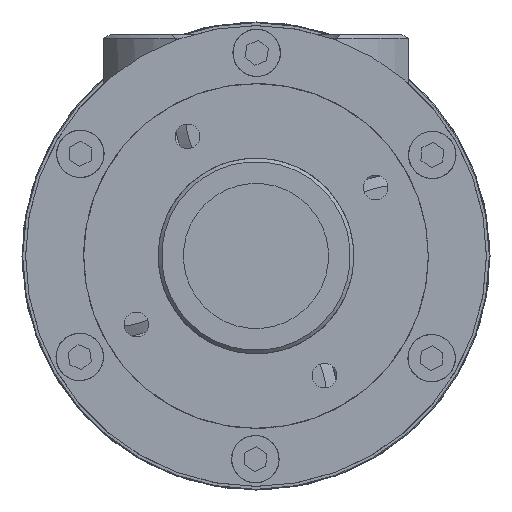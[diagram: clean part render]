
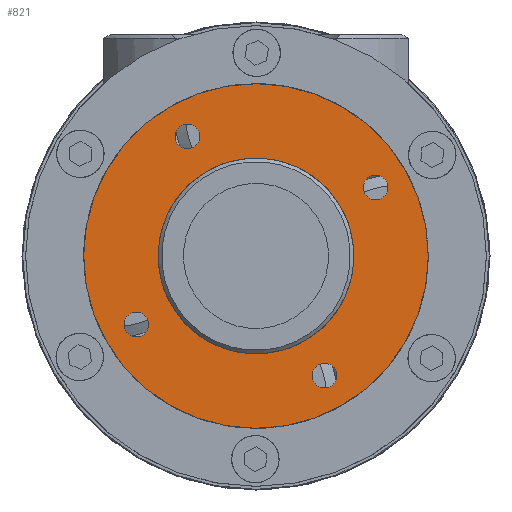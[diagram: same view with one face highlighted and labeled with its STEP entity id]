
A CAD part, left-side view. The second image highlights one B-rep face of the part: STEP entity #821.
In plain terms, the highlighted planar face has unit normal (-1, 0, 0) as drawn and (0, -1, 0) by its records, which use the part's own axes.
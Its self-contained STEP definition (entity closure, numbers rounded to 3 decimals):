
#821 = ADVANCED_FACE( '', ( #1687, #1688, #1689, #1690, #1691, #1692 ), #1693, .F. );
#1687 = FACE_OUTER_BOUND( '', #2636, .T. );
#1688 = FACE_BOUND( '', #2637, .T. );
#1689 = FACE_BOUND( '', #2638, .T. );
#1690 = FACE_BOUND( '', #2639, .T. );
#1691 = FACE_BOUND( '', #2640, .T. );
#1692 = FACE_BOUND( '', #2641, .T. );
#1693 = PLANE( '', #2642 );
#2636 = EDGE_LOOP( '', ( #4716 ) );
#2637 = EDGE_LOOP( '', ( #4717 ) );
#2638 = EDGE_LOOP( '', ( #4718 ) );
#2639 = EDGE_LOOP( '', ( #4719 ) );
#2640 = EDGE_LOOP( '', ( #4720 ) );
#2641 = EDGE_LOOP( '', ( #4721 ) );
#2642 = AXIS2_PLACEMENT_3D( '', #4722, #4723, #4724 );
#4716 = ORIENTED_EDGE( '', *, *, #5777, .T. );
#4717 = ORIENTED_EDGE( '', *, *, #5784, .F. );
#4718 = ORIENTED_EDGE( '', *, *, #5785, .F. );
#4719 = ORIENTED_EDGE( '', *, *, #5786, .F. );
#4720 = ORIENTED_EDGE( '', *, *, #5787, .F. );
#4721 = ORIENTED_EDGE( '', *, *, #5783, .F. );
#4722 = CARTESIAN_POINT( '', ( 0., 0., 47.5 ) );
#4723 = DIRECTION( '', ( 0., 1., 0. ) );
#4724 = DIRECTION( '', ( 1., 0., 0. ) );
#5777 = EDGE_CURVE( '', #6841, #6841, #6842, .T. );
#5783 = EDGE_CURVE( '', #6853, #6853, #6854, .T. );
#5784 = EDGE_CURVE( '', #6855, #6855, #6856, .T. );
#5785 = EDGE_CURVE( '', #6857, #6857, #6858, .T. );
#5786 = EDGE_CURVE( '', #6859, #6859, #6860, .T. );
#5787 = EDGE_CURVE( '', #6861, #6861, #6862, .T. );
#6841 = VERTEX_POINT( '', #8659 );
#6842 = CIRCLE( '', #8660, 47.5 );
#6853 = VERTEX_POINT( '', #8671 );
#6854 = CIRCLE( '', #8672, 27. );
#6855 = VERTEX_POINT( '', #8673 );
#6856 = CIRCLE( '', #8674, 3.4 );
#6857 = VERTEX_POINT( '', #8675 );
#6858 = CIRCLE( '', #8676, 3.4 );
#6859 = VERTEX_POINT( '', #8677 );
#6860 = CIRCLE( '', #8678, 3.4 );
#6861 = VERTEX_POINT( '', #8679 );
#6862 = CIRCLE( '', #8680, 3.4 );
#8659 = CARTESIAN_POINT( '', ( 0., 0., -47.5 ) );
#8660 = AXIS2_PLACEMENT_3D( '', #10173, #10174, #10175 );
#8671 = CARTESIAN_POINT( '', ( 0., 0., -27. ) );
#8672 = AXIS2_PLACEMENT_3D( '', #10191, #10192, #10193 );
#8673 = CARTESIAN_POINT( '', ( -38., 0., 3.4 ) );
#8674 = AXIS2_PLACEMENT_3D( '', #10194, #10195, #10196 );
#8675 = CARTESIAN_POINT( '', ( -3.4, 0., -38. ) );
#8676 = AXIS2_PLACEMENT_3D( '', #10197, #10198, #10199 );
#8677 = CARTESIAN_POINT( '', ( 38., 0., -3.4 ) );
#8678 = AXIS2_PLACEMENT_3D( '', #10200, #10201, #10202 );
#8679 = CARTESIAN_POINT( '', ( 3.4, 0., 38. ) );
#8680 = AXIS2_PLACEMENT_3D( '', #10203, #10204, #10205 );
#10173 = CARTESIAN_POINT( '', ( 0., 0., 0. ) );
#10174 = DIRECTION( '', ( 0., -1., 0. ) );
#10175 = DIRECTION( '', ( 0., 0., -1. ) );
#10191 = CARTESIAN_POINT( '', ( 0., 0., 0. ) );
#10192 = DIRECTION( '', ( 0., -1., 0. ) );
#10193 = DIRECTION( '', ( 0., 0., -1. ) );
#10194 = CARTESIAN_POINT( '', ( -38., 0., 0. ) );
#10195 = DIRECTION( '', ( 0., -1., 0. ) );
#10196 = DIRECTION( '', ( 0., 0., 1. ) );
#10197 = CARTESIAN_POINT( '', ( 0., 0., -38. ) );
#10198 = DIRECTION( '', ( 0., -1., 0. ) );
#10199 = DIRECTION( '', ( -1., 0., 0. ) );
#10200 = CARTESIAN_POINT( '', ( 38., 0., 0. ) );
#10201 = DIRECTION( '', ( 0., -1., 0. ) );
#10202 = DIRECTION( '', ( 0., 0., -1. ) );
#10203 = CARTESIAN_POINT( '', ( 0., 0., 38. ) );
#10204 = DIRECTION( '', ( 0., -1., 0. ) );
#10205 = DIRECTION( '', ( 1., 0., 0. ) );
